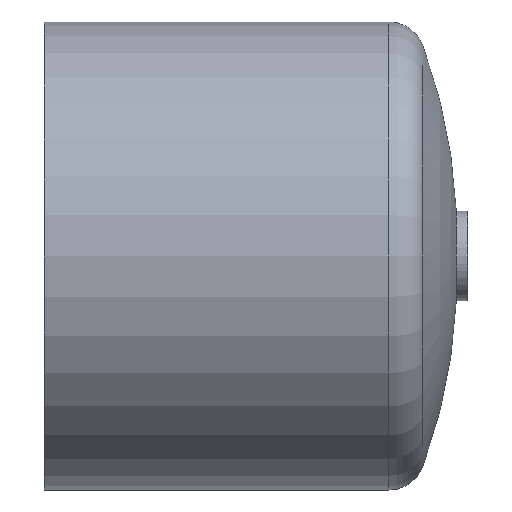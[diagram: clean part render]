
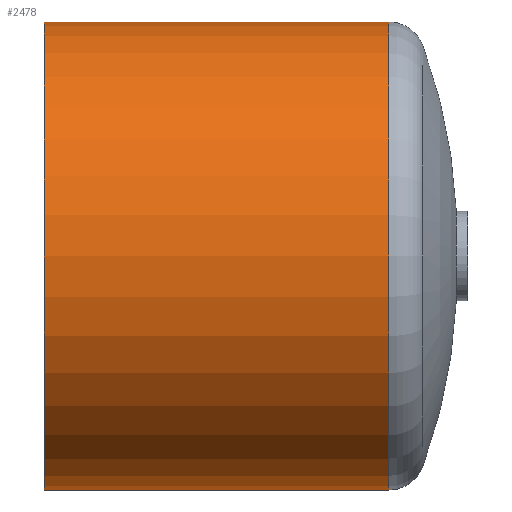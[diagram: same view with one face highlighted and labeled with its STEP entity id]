
A CAD part, front view. The second image highlights one B-rep face of the part: STEP entity #2478.
In plain terms, the highlighted cylindrical face has radius 62.5 mm (diameter 125 mm), a full revolution.
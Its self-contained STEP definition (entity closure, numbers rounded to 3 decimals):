
#23=CYLINDRICAL_SURFACE('',#2796,62.5);
#1077=ORIENTED_EDGE('',*,*,#1460,.F.);
#1078=ORIENTED_EDGE('',*,*,#1459,.T.);
#1459=EDGE_CURVE('',#1679,#1679,#1907,.T.);
#1460=EDGE_CURVE('',#1680,#1680,#1908,.F.);
#1679=VERTEX_POINT('',#6295);
#1680=VERTEX_POINT('',#6298);
#1907=CIRCLE('',#2795,62.5);
#1908=CIRCLE('',#2797,62.5);
#2091=EDGE_LOOP('',(#1077));
#2092=EDGE_LOOP('',(#1078));
#2277=FACE_BOUND('',#2091,.T.);
#2278=FACE_BOUND('',#2092,.T.);
#2478=ADVANCED_FACE('',(#2277,#2278),#23,.T.);
#2795=AXIS2_PLACEMENT_3D('',#6294,#3405,#3406);
#2796=AXIS2_PLACEMENT_3D('',#6296,#3407,#3408);
#2797=AXIS2_PLACEMENT_3D('',#6297,#3409,#3410);
#3405=DIRECTION('',(-1.,0.,0.));
#3406=DIRECTION('',(0.,0.,1.));
#3407=DIRECTION('',(-1.,0.,0.));
#3408=DIRECTION('',(0.,0.,1.));
#3409=DIRECTION('',(1.,0.,0.));
#3410=DIRECTION('',(0.,0.,-1.));
#6294=CARTESIAN_POINT('',(92.,0.,0.));
#6295=CARTESIAN_POINT('',(92.,0.,62.5));
#6296=CARTESIAN_POINT('',(110.,0.,0.));
#6297=CARTESIAN_POINT('',(0.,0.,0.));
#6298=CARTESIAN_POINT('',(0.,0.,-62.5));
